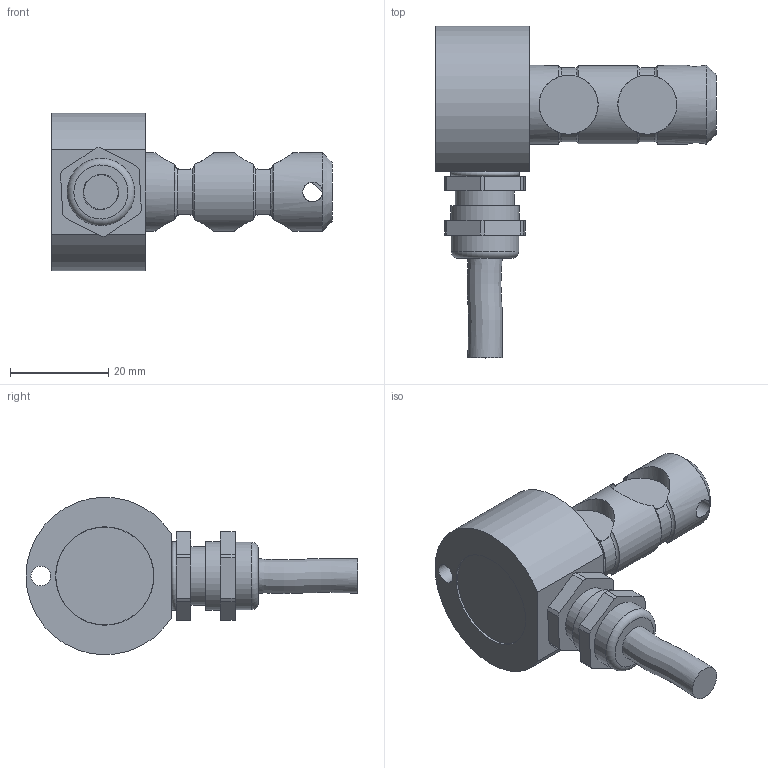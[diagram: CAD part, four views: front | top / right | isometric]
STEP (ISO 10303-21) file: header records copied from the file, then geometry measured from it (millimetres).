
FILE_DESCRIPTION(/* description */ ('Alibre Inc.'),/* implementation_level */ '2;1');
FILE_NAME(/* name */ 'export0',/* time_stamp */ '2012-04-28T17:35:32+02:00',/* author */ (''),/* organization */ (''),/* preprocessor_version */ 'ST-DEVELOPER v14',/* originating_system */ 'Alibre',/* authorisation */ '');
FILE_SCHEMA (('AUTOMOTIVE_DESIGN'));
Length unit declared in the file: centimetre
Bounding box: 57 x 67.45 x 31.99 mm (x, y, z)
Volume: 23072.2 mm3; surface area: 9503.4 mm2
Topology: 5 solids, 5 shells, 84 faces, 195 edges, 125 vertices
Faces by surface type: cylinder 38, plane 33, torus 10, cone 2, bspline 1
Full cylindrical faces by diameter (mm): 4 x2, 7 x1, 10.376 x1, 12 x2, 13.7 x1, 14 x1, 16 x3, 19.9 x1, 20 x1
Entity records: 2890 total; most frequent: CARTESIAN_POINT 1178, ORIENTED_EDGE 346, DIRECTION 245, EDGE_CURVE 173, VERTEX_POINT 121, AXIS2_PLACEMENT_3D 113, FACE_BOUND 112, EDGE_LOOP 111
